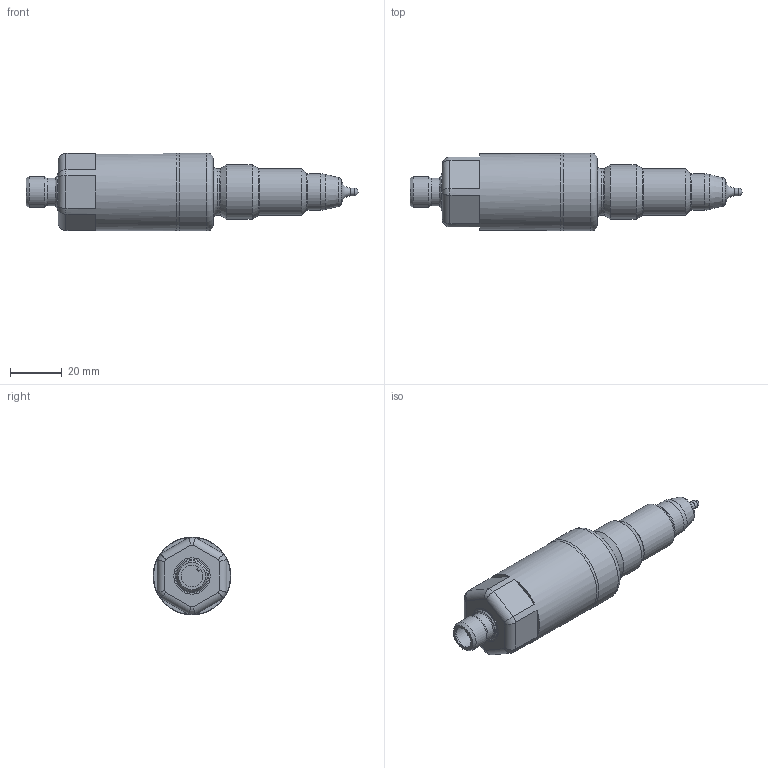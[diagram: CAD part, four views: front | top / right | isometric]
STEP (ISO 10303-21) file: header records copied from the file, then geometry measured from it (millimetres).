
FILE_DESCRIPTION( ( 'STEP AP203' ), '1' );
FILE_NAME( 'p:/temp/worker_212/temp/exporttempdir_4060_120_AWgfp/format_3/LDL100.stp', '2019-12-02T10:32:57', ( '' ), ( '' ), ' ', 'PARTsolutions', ' ' );
FILE_SCHEMA( ( 'CONFIG_CONTROL_DESIGN' ) );
Length unit declared in the file: millimetre
Products named in the file (1): _LDL100
Bounding box: 128.41 x 30.1 x 30.1 mm (x, y, z)
Volume: 53600.9 mm3; surface area: 10160.2 mm2
Topology: 1 solids, 1 shells, 67 faces, 149 edges, 87 vertices
Faces by surface type: plane 23, cylinder 19, torus 16, cone 7, sphere 1, bspline 1
Full cylindrical faces by diameter (mm): 3 x1, 8.4 x1, 9.6 x1, 10.8 x1, 12 x1, 14 x1, 14.004 x1, 18 x2, 20.955 x1, 29.8 x1, 30.1 x1
Entity records: 1884 total; most frequent: CARTESIAN_POINT 506, DIRECTION 289, ORIENTED_EDGE 226, AXIS2_PLACEMENT_3D 124, EDGE_CURVE 113, EDGE_LOOP 103, FACE_OUTER_BOUND 90, VERTEX_POINT 83
